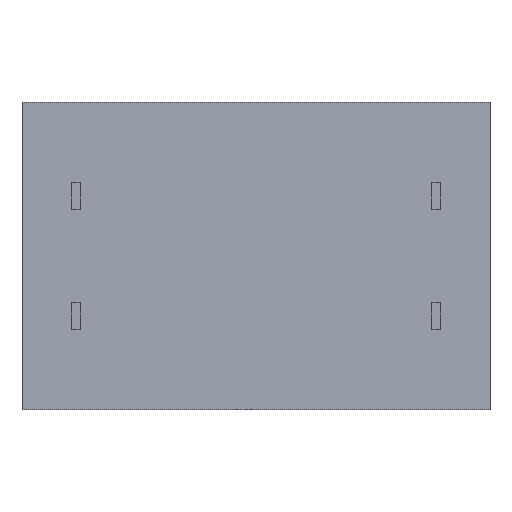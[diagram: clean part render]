
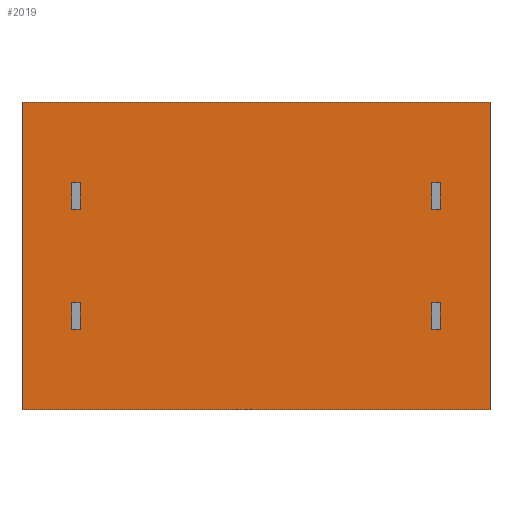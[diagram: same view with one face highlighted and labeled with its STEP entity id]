
A CAD part, front view. The second image highlights one B-rep face of the part: STEP entity #2019.
In plain terms, the highlighted planar face has unit normal (0, -1, 0).
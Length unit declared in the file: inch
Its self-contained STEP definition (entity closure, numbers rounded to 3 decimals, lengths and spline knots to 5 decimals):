
#172 = VECTOR ( 'NONE', #1075, 39.37008 ) ;
#230 = VERTEX_POINT ( 'NONE', #345 ) ;
#253 = CARTESIAN_POINT ( 'NONE',  ( 0.19488, -0.05413, 0.18209 ) ) ;
#339 = CARTESIAN_POINT ( 'NONE',  ( 0.19488, -0.05413, -0.07382 ) ) ;
#345 = CARTESIAN_POINT ( 'NONE',  ( -0.19488, -0.05413, 0.18209 ) ) ;
#383 = EDGE_CURVE ( 'NONE', #1412, #230, #2128, .T. ) ;
#434 = DIRECTION ( 'NONE',  ( 0., 0., -1. ) ) ;
#684 = FACE_OUTER_BOUND ( 'NONE', #955, .T. ) ;
#955 = EDGE_LOOP ( 'NONE', ( #1607, #1027, #2259, #2586 ) ) ;
#975 = DIRECTION ( 'NONE',  ( 0., 0., -1. ) ) ;
#1027 = ORIENTED_EDGE ( 'NONE', *, *, #2166, .F. ) ;
#1075 = DIRECTION ( 'NONE',  ( -1., 0., 0. ) ) ;
#1081 = EDGE_CURVE ( 'NONE', #230, #2535, #2009, .T. ) ;
#1172 = LINE ( 'NONE', #1538, #1927 ) ;
#1192 = DIRECTION ( 'NONE',  ( 0., 0., 1. ) ) ;
#1339 = DIRECTION ( 'NONE',  ( -1., 0., 0. ) ) ;
#1392 = LINE ( 'NONE', #2229, #1619 ) ;
#1412 = VERTEX_POINT ( 'NONE', #1626 ) ;
#1538 = CARTESIAN_POINT ( 'NONE',  ( 0.19488, -0.05413, -0.07382 ) ) ;
#1544 = EDGE_CURVE ( 'NONE', #2278, #1412, #1392, .T. ) ;
#1602 = CARTESIAN_POINT ( 'NONE',  ( -0.19488, -0.05413, 0.18209 ) ) ;
#1607 = ORIENTED_EDGE ( 'NONE', *, *, #1081, .T. ) ;
#1619 = VECTOR ( 'NONE', #1192, 39.37008 ) ;
#1626 = CARTESIAN_POINT ( 'NONE',  ( 0.19488, -0.05413, 0.18209 ) ) ;
#1771 = CARTESIAN_POINT ( 'NONE',  ( -0.19488, -0.05413, -0.07382 ) ) ;
#1927 = VECTOR ( 'NONE', #1339, 39.37008 ) ;
#2009 = LINE ( 'NONE', #1602, #2361 ) ;
#2019 = ADVANCED_FACE ( 'NONE', ( #684 ), #2538, .F. ) ;
#2128 = LINE ( 'NONE', #253, #172 ) ;
#2138 = DIRECTION ( 'NONE',  ( 0., 1., 0. ) ) ;
#2166 = EDGE_CURVE ( 'NONE', #2278, #2535, #1172, .T. ) ;
#2229 = CARTESIAN_POINT ( 'NONE',  ( 0.19488, -0.05413, -0.07382 ) ) ;
#2259 = ORIENTED_EDGE ( 'NONE', *, *, #1544, .T. ) ;
#2278 = VERTEX_POINT ( 'NONE', #339 ) ;
#2322 = CARTESIAN_POINT ( 'NONE',  ( 0., -0.05413, 0.05413 ) ) ;
#2361 = VECTOR ( 'NONE', #975, 39.37008 ) ;
#2535 = VERTEX_POINT ( 'NONE', #1771 ) ;
#2538 = PLANE ( 'NONE',  #2543 ) ;
#2543 = AXIS2_PLACEMENT_3D ( 'NONE', #2322, #2138, #434 ) ;
#2586 = ORIENTED_EDGE ( 'NONE', *, *, #383, .T. ) ;
